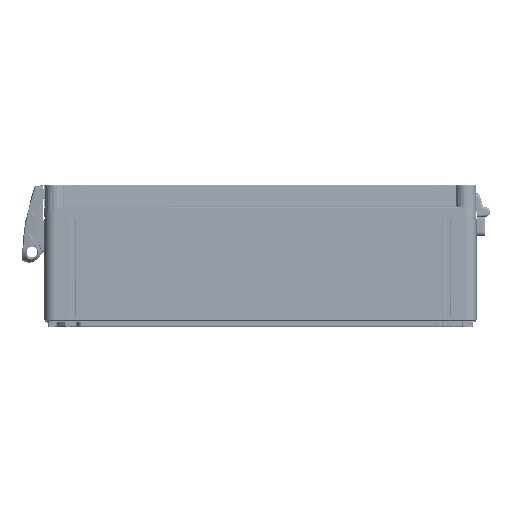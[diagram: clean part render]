
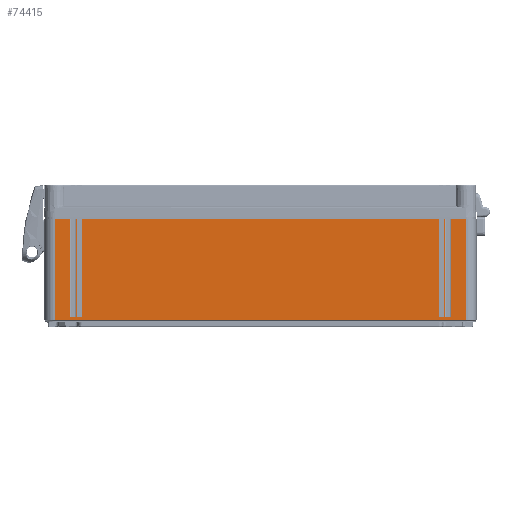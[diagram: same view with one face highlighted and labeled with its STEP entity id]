
A CAD part, left-side view. The second image highlights one B-rep face of the part: STEP entity #74415.
In plain terms, the highlighted planar face has unit normal (-1, 0, 0).
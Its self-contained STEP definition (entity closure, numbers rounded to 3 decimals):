
#4883=DIRECTION('',(0.,1.,0.));
#4884=VECTOR('',#4883,1.);
#4885=CARTESIAN_POINT('',(-300.,170.,-5.933));
#4886=LINE('',#4885,#4884);
#4890=DIRECTION('',(0.,1.,0.));
#4891=VECTOR('',#4890,330.);
#4892=CARTESIAN_POINT('',(-300.,-165.,-5.933));
#4893=LINE('',#4892,#4891);
#4897=DIRECTION('',(0.,1.,0.));
#4898=VECTOR('',#4897,1.);
#4899=CARTESIAN_POINT('',(-300.,-171.,-5.933));
#4900=LINE('',#4899,#4898);
#4904=DIRECTION('',(0.,1.,0.));
#4905=VECTOR('',#4904,14.);
#4906=CARTESIAN_POINT('',(-300.,-190.,-5.933));
#4907=LINE('',#4906,#4905);
#4911=DIRECTION('',(0.,0.,-1.));
#4912=VECTOR('',#4911,93.634);
#4913=CARTESIAN_POINT('',(-300.,-190.,-5.933));
#4914=LINE('',#4913,#4912);
#4918=DIRECTION('',(0.,1.,0.));
#4919=VECTOR('',#4918,380.);
#4920=CARTESIAN_POINT('',(-300.,-190.,-99.567));
#4921=LINE('',#4920,#4919);
#4925=DIRECTION('',(0.,1.,0.));
#4926=VECTOR('',#4925,14.);
#4927=CARTESIAN_POINT('',(-300.,176.,-5.933));
#4928=LINE('',#4927,#4926);
#4932=DIRECTION('',(0.,0.,1.));
#4933=VECTOR('',#4932,90.567);
#4934=CARTESIAN_POINT('',(-300.,176.,-96.5));
#4935=LINE('',#4934,#4933);
#5036=DIRECTION('',(0.,0.,-1.));
#5037=VECTOR('',#5036,93.634);
#5038=CARTESIAN_POINT('',(-300.,190.,-5.933));
#5039=LINE('',#5038,#5037);
#42986=DIRECTION('',(0.,0.,-1.));
#42987=VECTOR('',#42986,90.567);
#42988=CARTESIAN_POINT('',(-300.,-176.,-5.933));
#42989=LINE('',#42988,#42987);
#43008=DIRECTION('',(0.,1.,0.));
#43009=VECTOR('',#43008,5.);
#43010=CARTESIAN_POINT('',(-300.,-176.,-96.5));
#43011=LINE('',#43010,#43009);
#43032=DIRECTION('',(0.,0.,1.));
#43033=VECTOR('',#43032,90.567);
#43034=CARTESIAN_POINT('',(-300.,-171.,-96.5));
#43035=LINE('',#43034,#43033);
#43064=DIRECTION('',(0.,0.,-1.));
#43065=VECTOR('',#43064,90.567);
#43066=CARTESIAN_POINT('',(-300.,171.,-5.933));
#43067=LINE('',#43066,#43065);
#43086=DIRECTION('',(0.,1.,0.));
#43087=VECTOR('',#43086,5.);
#43088=CARTESIAN_POINT('',(-300.,171.,-96.5));
#43089=LINE('',#43088,#43087);
#43110=DIRECTION('',(0.,0.,1.));
#43111=VECTOR('',#43110,90.567);
#43112=CARTESIAN_POINT('',(-300.,170.,-96.5));
#43113=LINE('',#43112,#43111);
#43142=DIRECTION('',(0.,1.,0.));
#43143=VECTOR('',#43142,5.);
#43144=CARTESIAN_POINT('',(-300.,165.,-96.5));
#43145=LINE('',#43144,#43143);
#43166=DIRECTION('',(0.,0.,-1.));
#43167=VECTOR('',#43166,90.567);
#43168=CARTESIAN_POINT('',(-300.,165.,-5.933));
#43169=LINE('',#43168,#43167);
#43188=DIRECTION('',(0.,0.,1.));
#43189=VECTOR('',#43188,90.567);
#43190=CARTESIAN_POINT('',(-300.,-165.,-96.5));
#43191=LINE('',#43190,#43189);
#43220=DIRECTION('',(0.,1.,0.));
#43221=VECTOR('',#43220,5.);
#43222=CARTESIAN_POINT('',(-300.,-170.,-96.5));
#43223=LINE('',#43222,#43221);
#43244=DIRECTION('',(0.,0.,-1.));
#43245=VECTOR('',#43244,90.567);
#43246=CARTESIAN_POINT('',(-300.,-170.,-5.933));
#43247=LINE('',#43246,#43245);
#64849=CARTESIAN_POINT('',(-300.,-190.,-99.567));
#64851=VERTEX_POINT('',#64849);
#64853=CARTESIAN_POINT('',(-300.,-190.,-5.933));
#64855=VERTEX_POINT('',#64853);
#64856=CARTESIAN_POINT('',(-300.,190.,-99.567));
#64857=VERTEX_POINT('',#64856);
#64860=CARTESIAN_POINT('',(-300.,190.,-5.933));
#64862=VERTEX_POINT('',#64860);
#64956=CARTESIAN_POINT('',(-300.,176.,-96.5));
#64957=CARTESIAN_POINT('',(-300.,176.,-5.933));
#64958=VERTEX_POINT('',#64956);
#64959=VERTEX_POINT('',#64957);
#64963=CARTESIAN_POINT('',(-300.,171.,-96.5));
#64964=VERTEX_POINT('',#64963);
#64967=CARTESIAN_POINT('',(-300.,171.,-5.933));
#64968=VERTEX_POINT('',#64967);
#64971=CARTESIAN_POINT('',(-300.,170.,-96.5));
#64972=CARTESIAN_POINT('',(-300.,170.,-5.933));
#64973=VERTEX_POINT('',#64971);
#64974=VERTEX_POINT('',#64972);
#64978=CARTESIAN_POINT('',(-300.,165.,-96.5));
#64979=VERTEX_POINT('',#64978);
#64982=CARTESIAN_POINT('',(-300.,165.,-5.933));
#64983=VERTEX_POINT('',#64982);
#64986=CARTESIAN_POINT('',(-300.,-165.,-96.5));
#64987=CARTESIAN_POINT('',(-300.,-165.,-5.933));
#64988=VERTEX_POINT('',#64986);
#64989=VERTEX_POINT('',#64987);
#64993=CARTESIAN_POINT('',(-300.,-170.,-96.5));
#64994=VERTEX_POINT('',#64993);
#64997=CARTESIAN_POINT('',(-300.,-170.,-5.933));
#64998=VERTEX_POINT('',#64997);
#65001=CARTESIAN_POINT('',(-300.,-171.,-96.5));
#65002=CARTESIAN_POINT('',(-300.,-171.,-5.933));
#65003=VERTEX_POINT('',#65001);
#65004=VERTEX_POINT('',#65002);
#65008=CARTESIAN_POINT('',(-300.,-176.,-96.5));
#65009=VERTEX_POINT('',#65008);
#65012=CARTESIAN_POINT('',(-300.,-176.,-5.933));
#65013=VERTEX_POINT('',#65012);
#74369=CARTESIAN_POINT('',(-300.,-190.,0.));
#74370=DIRECTION('',(-1.,0.,0.));
#74371=DIRECTION('',(0.,1.,0.));
#74372=AXIS2_PLACEMENT_3D('',#74369,#74370,#74371);
#74373=PLANE('',#74372);
#74375=ORIENTED_EDGE('',*,*,#74374,.F.);
#74377=ORIENTED_EDGE('',*,*,#74376,.F.);
#74379=ORIENTED_EDGE('',*,*,#74378,.F.);
#74381=ORIENTED_EDGE('',*,*,#74380,.F.);
#74383=ORIENTED_EDGE('',*,*,#74382,.F.);
#74385=ORIENTED_EDGE('',*,*,#74384,.F.);
#74387=ORIENTED_EDGE('',*,*,#74386,.F.);
#74389=ORIENTED_EDGE('',*,*,#74388,.F.);
#74391=ORIENTED_EDGE('',*,*,#74390,.F.);
#74393=ORIENTED_EDGE('',*,*,#74392,.F.);
#74395=ORIENTED_EDGE('',*,*,#74394,.F.);
#74397=ORIENTED_EDGE('',*,*,#74396,.F.);
#74399=ORIENTED_EDGE('',*,*,#74398,.F.);
#74401=ORIENTED_EDGE('',*,*,#74400,.F.);
#74403=ORIENTED_EDGE('',*,*,#74402,.F.);
#74405=ORIENTED_EDGE('',*,*,#74404,.F.);
#74406=ORIENTED_EDGE('',*,*,#74360,.T.);
#74408=ORIENTED_EDGE('',*,*,#74407,.T.);
#74410=ORIENTED_EDGE('',*,*,#74409,.F.);
#74412=ORIENTED_EDGE('',*,*,#74411,.F.);
#74413=EDGE_LOOP('',(#74375,#74377,#74379,#74381,#74383,#74385,#74387,#74389,
#74391,#74393,#74395,#74397,#74399,#74401,#74403,#74405,#74406,#74408,#74410,
#74412));
#74414=FACE_OUTER_BOUND('',#74413,.F.);
#74415=ADVANCED_FACE('',(#74414),#74373,.T.);
#74360=EDGE_CURVE('',#64855,#64851,#4914,.T.);
#74374=EDGE_CURVE('',#64958,#64959,#4935,.T.);
#74376=EDGE_CURVE('',#64964,#64958,#43089,.T.);
#74378=EDGE_CURVE('',#64968,#64964,#43067,.T.);
#74380=EDGE_CURVE('',#64974,#64968,#4886,.T.);
#74382=EDGE_CURVE('',#64973,#64974,#43113,.T.);
#74384=EDGE_CURVE('',#64979,#64973,#43145,.T.);
#74386=EDGE_CURVE('',#64983,#64979,#43169,.T.);
#74388=EDGE_CURVE('',#64989,#64983,#4893,.T.);
#74390=EDGE_CURVE('',#64988,#64989,#43191,.T.);
#74392=EDGE_CURVE('',#64994,#64988,#43223,.T.);
#74394=EDGE_CURVE('',#64998,#64994,#43247,.T.);
#74396=EDGE_CURVE('',#65004,#64998,#4900,.T.);
#74398=EDGE_CURVE('',#65003,#65004,#43035,.T.);
#74400=EDGE_CURVE('',#65009,#65003,#43011,.T.);
#74402=EDGE_CURVE('',#65013,#65009,#42989,.T.);
#74404=EDGE_CURVE('',#64855,#65013,#4907,.T.);
#74407=EDGE_CURVE('',#64851,#64857,#4921,.T.);
#74409=EDGE_CURVE('',#64862,#64857,#5039,.T.);
#74411=EDGE_CURVE('',#64959,#64862,#4928,.T.);
